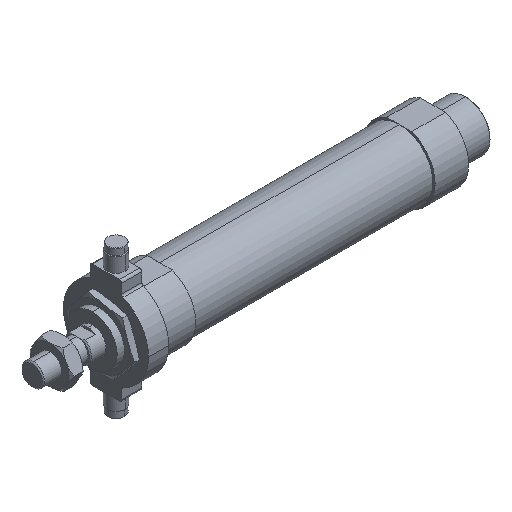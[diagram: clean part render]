
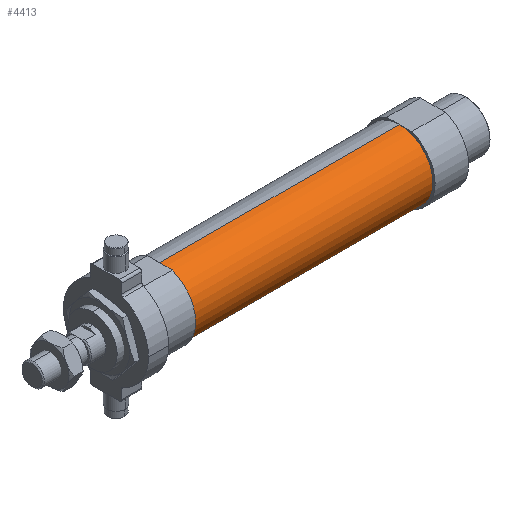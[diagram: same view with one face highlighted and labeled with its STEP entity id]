
A CAD part, isometric view. The second image highlights one B-rep face of the part: STEP entity #4413.
In plain terms, the highlighted cylindrical face has radius 15 mm (diameter 30 mm), a partial arc.
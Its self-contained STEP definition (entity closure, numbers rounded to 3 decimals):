
#335 = EDGE_CURVE ( 'NONE', #1478, #2826, #4309, .T. ) ;
#360 = CIRCLE ( 'NONE', #2933, 15. ) ;
#448 = DIRECTION ( 'NONE',  ( 0., 0., 1. ) ) ;
#558 = CARTESIAN_POINT ( 'NONE',  ( 164., 0., -15. ) ) ;
#731 = EDGE_CURVE ( 'NONE', #2826, #2917, #360, .T. ) ;
#1309 = LINE ( 'NONE', #3943, #3071 ) ;
#1415 = CIRCLE ( 'NONE', #2202, 15. ) ;
#1478 = VERTEX_POINT ( 'NONE', #558 ) ;
#1481 = DIRECTION ( 'NONE',  ( -1., 0., 0. ) ) ;
#1489 = CARTESIAN_POINT ( 'NONE',  ( 57., 0., 0. ) ) ;
#1535 = DIRECTION ( 'NONE',  ( -1., 0., 0. ) ) ;
#1595 = EDGE_LOOP ( 'NONE', ( #1838, #3274, #3508, #1669 ) ) ;
#1669 = ORIENTED_EDGE ( 'NONE', *, *, #731, .F. ) ;
#1826 = DIRECTION ( 'NONE',  ( 0., 0., 1. ) ) ;
#1838 = ORIENTED_EDGE ( 'NONE', *, *, #335, .F. ) ;
#1885 = FACE_OUTER_BOUND ( 'NONE', #1595, .T. ) ;
#2074 = AXIS2_PLACEMENT_3D ( 'NONE', #3709, #3877, #2315 ) ;
#2202 = AXIS2_PLACEMENT_3D ( 'NONE', #4293, #1535, #1826 ) ;
#2315 = DIRECTION ( 'NONE',  ( 0., 0., 1. ) ) ;
#2697 = CARTESIAN_POINT ( 'NONE',  ( -6.469, 0., -15. ) ) ;
#2826 = VERTEX_POINT ( 'NONE', #3282 ) ;
#2857 = EDGE_CURVE ( 'NONE', #1478, #3711, #1415, .T. ) ;
#2917 = VERTEX_POINT ( 'NONE', #3336 ) ;
#2933 = AXIS2_PLACEMENT_3D ( 'NONE', #1489, #3849, #448 ) ;
#3071 = VECTOR ( 'NONE', #4559, 1000. ) ;
#3104 = CARTESIAN_POINT ( 'NONE',  ( 164., 0., 15. ) ) ;
#3117 = CYLINDRICAL_SURFACE ( 'NONE', #2074, 15. ) ;
#3210 = EDGE_CURVE ( 'NONE', #3711, #2917, #1309, .T. ) ;
#3274 = ORIENTED_EDGE ( 'NONE', *, *, #2857, .T. ) ;
#3282 = CARTESIAN_POINT ( 'NONE',  ( 57., 0., -15. ) ) ;
#3336 = CARTESIAN_POINT ( 'NONE',  ( 57., 0., 15. ) ) ;
#3508 = ORIENTED_EDGE ( 'NONE', *, *, #3210, .T. ) ;
#3709 = CARTESIAN_POINT ( 'NONE',  ( -6.469, 0., 0. ) ) ;
#3711 = VERTEX_POINT ( 'NONE', #3104 ) ;
#3849 = DIRECTION ( 'NONE',  ( -1., 0., 0. ) ) ;
#3877 = DIRECTION ( 'NONE',  ( -1., 0., 0. ) ) ;
#3943 = CARTESIAN_POINT ( 'NONE',  ( -6.469, 0., 15. ) ) ;
#4293 = CARTESIAN_POINT ( 'NONE',  ( 164., 0., 0. ) ) ;
#4309 = LINE ( 'NONE', #2697, #4414 ) ;
#4413 = ADVANCED_FACE ( 'NONE', ( #1885 ), #3117, .T. ) ;
#4414 = VECTOR ( 'NONE', #1481, 1000. ) ;
#4559 = DIRECTION ( 'NONE',  ( -1., 0., 0. ) ) ;
